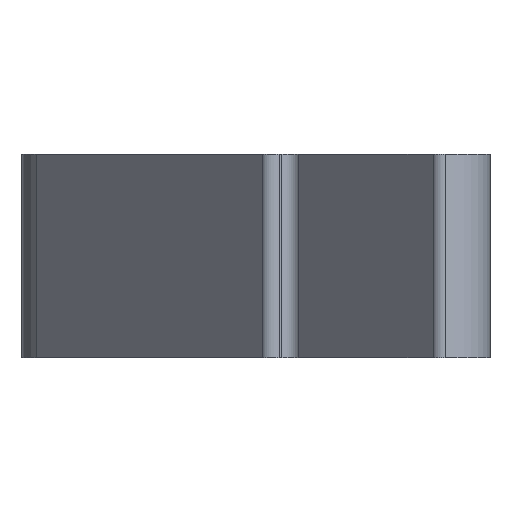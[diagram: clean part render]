
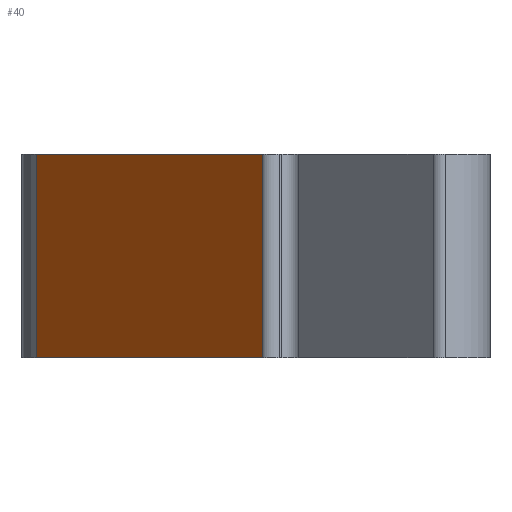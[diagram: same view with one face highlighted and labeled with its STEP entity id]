
A CAD part, front view. The second image highlights one B-rep face of the part: STEP entity #40.
In plain terms, the highlighted planar face has unit normal (-0.761, -0.649, 0).
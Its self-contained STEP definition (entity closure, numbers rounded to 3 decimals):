
#20 = LINE ( 'NONE', #741, #178 ) ;
#40 = ADVANCED_FACE ( 'NONE', ( #675 ), #225, .F. ) ;
#81 = VERTEX_POINT ( 'NONE', #327 ) ;
#178 = VECTOR ( 'NONE', #469, 1000. ) ;
#190 = VECTOR ( 'NONE', #474, 1000. ) ;
#225 = PLANE ( 'NONE',  #239 ) ;
#226 = DIRECTION ( 'NONE',  ( 0.649, -0.761, 0. ) ) ;
#237 = LINE ( 'NONE', #313, #190 ) ;
#239 = AXIS2_PLACEMENT_3D ( 'NONE', #443, #555, #558 ) ;
#240 = VERTEX_POINT ( 'NONE', #371 ) ;
#280 = CARTESIAN_POINT ( 'NONE',  ( 63.958, -95.707, 0. ) ) ;
#301 = VECTOR ( 'NONE', #303, 1000. ) ;
#303 = DIRECTION ( 'NONE',  ( 0., 0., 1. ) ) ;
#313 = CARTESIAN_POINT ( 'NONE',  ( 63.958, -95.707, -34. ) ) ;
#327 = CARTESIAN_POINT ( 'NONE',  ( 63.958, -95.707, -34. ) ) ;
#357 = CARTESIAN_POINT ( 'NONE',  ( 26.11, -51.301, -34. ) ) ;
#371 = CARTESIAN_POINT ( 'NONE',  ( 26.11, -51.301, -34. ) ) ;
#404 = LINE ( 'NONE', #357, #301 ) ;
#423 = VERTEX_POINT ( 'NONE', #280 ) ;
#443 = CARTESIAN_POINT ( 'NONE',  ( -10.203, -8.697, -34. ) ) ;
#444 = LINE ( 'NONE', #503, #493 ) ;
#458 = ORIENTED_EDGE ( 'NONE', *, *, #633, .F. ) ;
#469 = DIRECTION ( 'NONE',  ( 0.649, -0.761, 0. ) ) ;
#474 = DIRECTION ( 'NONE',  ( 0., 0., -1. ) ) ;
#478 = EDGE_CURVE ( 'NONE', #240, #81, #444, .T. ) ;
#493 = VECTOR ( 'NONE', #226, 1000. ) ;
#503 = CARTESIAN_POINT ( 'NONE',  ( -10.203, -8.697, -34. ) ) ;
#505 = EDGE_CURVE ( 'NONE', #707, #423, #20, .T. ) ;
#555 = DIRECTION ( 'NONE',  ( 0.761, 0.649, 0. ) ) ;
#558 = DIRECTION ( 'NONE',  ( -0.649, 0.761, 0. ) ) ;
#576 = ORIENTED_EDGE ( 'NONE', *, *, #505, .F. ) ;
#596 = ORIENTED_EDGE ( 'NONE', *, *, #478, .T. ) ;
#604 = EDGE_CURVE ( 'NONE', #423, #81, #237, .T. ) ;
#633 = EDGE_CURVE ( 'NONE', #240, #707, #404, .T. ) ;
#675 = FACE_OUTER_BOUND ( 'NONE', #678, .T. ) ;
#678 = EDGE_LOOP ( 'NONE', ( #576, #458, #596, #743 ) ) ;
#707 = VERTEX_POINT ( 'NONE', #717 ) ;
#717 = CARTESIAN_POINT ( 'NONE',  ( 26.11, -51.301, 0. ) ) ;
#741 = CARTESIAN_POINT ( 'NONE',  ( -10.203, -8.697, 0. ) ) ;
#743 = ORIENTED_EDGE ( 'NONE', *, *, #604, .F. ) ;
